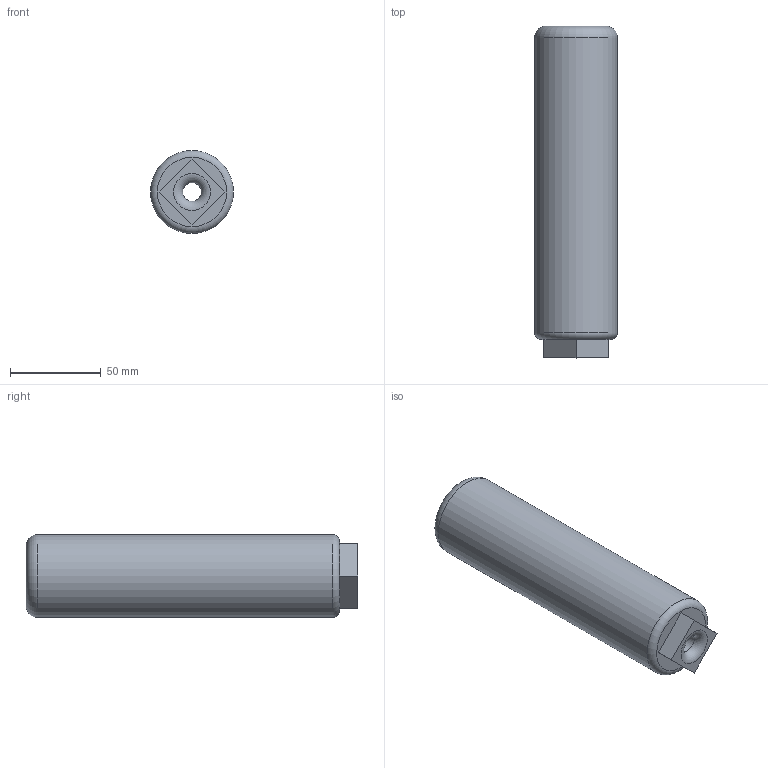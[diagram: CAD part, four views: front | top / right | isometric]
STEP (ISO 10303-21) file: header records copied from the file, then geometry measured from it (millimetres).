
FILE_DESCRIPTION(/* description */ (''),/* implementation_level */ '2;1');
FILE_NAME(/* name */ 'C:/Users/Owner/Desktop/liberator suppressed/STEP Files/36 Caliber versions/36 Cal Liberator Suppressor can 7.2 inch.step',/* time_stamp */ '2020-04-23T21:47:52-04:00',/* author */ (''),/* organization */ (''),/* preprocessor_version */ 'ST-DEVELOPER v18.1',/* originating_system */ 'Autodesk Translation Framework v9.2.0.1227',/* authorisation */ '');
FILE_SCHEMA (('AUTOMOTIVE_DESIGN { 1 0 10303 214 3 1 1 }'));
Length unit declared in the file: inch
Products named in the file (1): 38/9mm lib sup 7.2 inch
Bounding box: 45.72 x 182.88 x 45.72 mm (x, y, z)
Volume: 196453.3 mm3; surface area: 45052.1 mm2
Topology: 1 solids, 1 shells, 49 faces, 133 edges, 88 vertices
Faces by surface type: cylinder 33, plane 9, torus 5, bspline 2
Full cylindrical faces by diameter (mm): 10.16 x1, 27.038 x14, 30.162 x14, 45.72 x1
Entity records: 4338 total; most frequent: CARTESIAN_POINT 3144, ORIENTED_EDGE 266, DIRECTION 206, EDGE_CURVE 133, VERTEX_POINT 88, AXIS2_PLACEMENT_3D 81, B_SPLINE_CURVE_WITH_KNOTS 56, EDGE_LOOP 53
